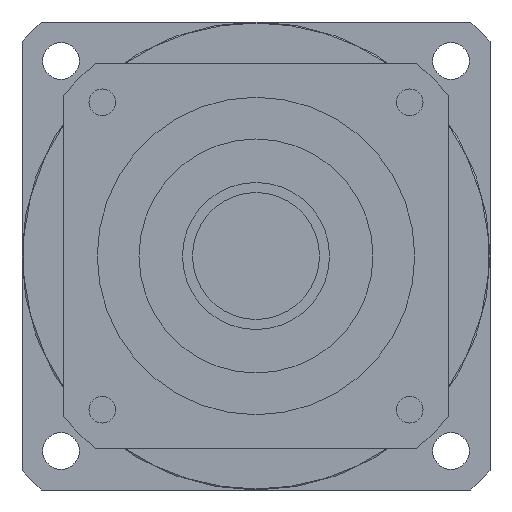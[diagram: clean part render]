
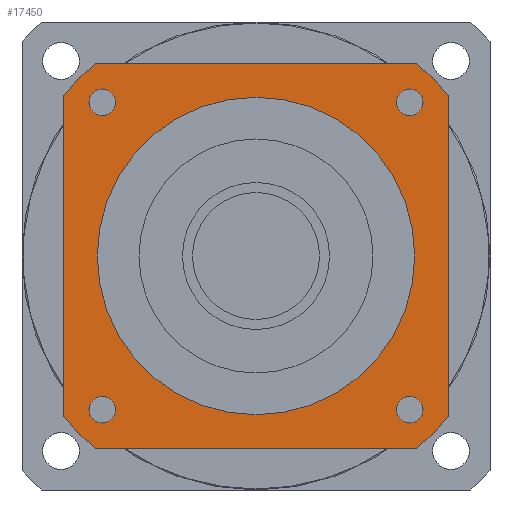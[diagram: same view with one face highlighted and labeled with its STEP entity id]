
A CAD part, left-side view. The second image highlights one B-rep face of the part: STEP entity #17450.
In plain terms, the highlighted planar face has unit normal (-1, 0, 0) as drawn and (0, 0, -1) by its records, which use the part's own axes.
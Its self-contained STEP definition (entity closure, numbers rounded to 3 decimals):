
#15250=CARTESIAN_POINT('',(57.5,48.153,-84.7));
#15260=VERTEX_POINT('',#15250);
#15290=CARTESIAN_POINT('',(57.5,57.5,-84.7));
#15300=DIRECTION('',(0.,-1.,0.));
#15310=VECTOR('',#15300,1000.);
#15320=LINE('',#15290,#15310);
#15330=CARTESIAN_POINT('',(57.5,-48.153,-84.7));
#15340=VERTEX_POINT('',#15330);
#15350=EDGE_CURVE('',#15260,#15340,#15320,.T.);
#15560=CARTESIAN_POINT('',(48.153,57.5,-84.7));
#15570=VERTEX_POINT('',#15560);
#15600=CARTESIAN_POINT('',(0.,0.,
-84.7));
#15610=DIRECTION('',(0.,0.,-1.));
#15620=DIRECTION('',(1.,0.,0.));
#15630=AXIS2_PLACEMENT_3D('',#15600,#15610,#15620);
#15640=CIRCLE('',#15630,75.);
#15650=EDGE_CURVE('',#15570,#15260,#15640,.T.);
#15830=CARTESIAN_POINT('',(48.153,-57.5,-84.7));
#15840=VERTEX_POINT('',#15830);
#15870=CARTESIAN_POINT('',(57.5,-57.5,-84.7));
#15880=DIRECTION('',(-1.,0.,0.));
#15890=VECTOR('',#15880,1000.);
#15900=LINE('',#15870,#15890);
#15910=CARTESIAN_POINT('',(-48.153,-57.5,-84.7));
#15920=VERTEX_POINT('',#15910);
#15930=EDGE_CURVE('',#15840,#15920,#15900,.T.);
#16110=CARTESIAN_POINT('',(0.,0.,
-84.7));
#16120=DIRECTION('',(0.,0.,-1.));
#16130=DIRECTION('',(1.,0.,0.));
#16140=AXIS2_PLACEMENT_3D('',#16110,#16120,#16130);
#16150=CIRCLE('',#16140,75.);
#16160=EDGE_CURVE('',#15340,#15840,#16150,.T.);
#16230=CARTESIAN_POINT('',(57.5,57.5,-84.7));
#16240=DIRECTION('',(0.,0.,-1.));
#16250=DIRECTION('',(1.,0.,0.));
#16260=AXIS2_PLACEMENT_3D('',#16230,#16240,#16250);
#16270=PLANE('',#16260);
#16280=CARTESIAN_POINT('',(-45.962,45.962,-84.7));
#16290=DIRECTION('',(0.,0.,-1.));
#16300=DIRECTION('',(-1.,0.,0.));
#16310=AXIS2_PLACEMENT_3D('',#16280,#16290,#16300);
#16320=CIRCLE('',#16310,4.);
#16330=CARTESIAN_POINT('',(-49.962,45.962,-84.7));
#16340=VERTEX_POINT('',#16330);
#16350=CARTESIAN_POINT('',(-41.962,45.962,-84.7));
#16360=VERTEX_POINT('',#16350);
#16370=EDGE_CURVE('',#16340,#16360,#16320,.T.);
#16380=ORIENTED_EDGE('',*,*,#16370,.F.);
#16390=EDGE_CURVE('',#16360,#16340,#16320,.T.);
#16400=ORIENTED_EDGE('',*,*,#16390,.F.);
#16410=EDGE_LOOP('',(#16400,#16380));
#16420=FACE_BOUND('',#16410,.T.);
#16430=CARTESIAN_POINT('',(45.962,45.962,-84.7));
#16440=DIRECTION('',(0.,0.,-1.));
#16450=DIRECTION('',(0.,1.,0.));
#16460=AXIS2_PLACEMENT_3D('',#16430,#16440,#16450);
#16470=CIRCLE('',#16460,4.);
#16480=CARTESIAN_POINT('',(45.962,49.962,-84.7));
#16490=VERTEX_POINT('',#16480);
#16500=CARTESIAN_POINT('',(45.962,41.962,-84.7));
#16510=VERTEX_POINT('',#16500);
#16520=EDGE_CURVE('',#16490,#16510,#16470,.T.);
#16530=ORIENTED_EDGE('',*,*,#16520,.F.);
#16540=EDGE_CURVE('',#16510,#16490,#16470,.T.);
#16550=ORIENTED_EDGE('',*,*,#16540,.F.);
#16560=EDGE_LOOP('',(#16550,#16530));
#16570=FACE_BOUND('',#16560,.T.);
#16580=CARTESIAN_POINT('',(0.,0.,
-84.7));
#16590=DIRECTION('',(0.,0.,1.));
#16600=DIRECTION('',(0.,1.,0.));
#16610=AXIS2_PLACEMENT_3D('',#16580,#16590,#16600);
#16620=CIRCLE('',#16610,47.5);
#16630=CARTESIAN_POINT('',(-47.5,0.,-84.7));
#16640=VERTEX_POINT('',#16630);
#16650=CARTESIAN_POINT('',(47.5,0.,-84.7));
#16660=VERTEX_POINT('',#16650);
#16670=EDGE_CURVE('',#16640,#16660,#16620,.T.);
#16680=ORIENTED_EDGE('',*,*,#16670,.T.);
#16690=CARTESIAN_POINT('',(0.,47.5,-84.7));
#16700=VERTEX_POINT('',#16690);
#16710=EDGE_CURVE('',#16700,#16640,#16620,.T.);
#16720=ORIENTED_EDGE('',*,*,#16710,.T.);
#16730=EDGE_CURVE('',#16660,#16700,#16620,.T.);
#16740=ORIENTED_EDGE('',*,*,#16730,.T.);
#16750=EDGE_LOOP('',(#16740,#16720,#16680));
#16760=FACE_BOUND('',#16750,.T.);
#16770=CARTESIAN_POINT('',(45.962,-45.962,-84.7));
#16780=DIRECTION('',(0.,0.,-1.));
#16790=DIRECTION('',(1.,0.,0.));
#16800=AXIS2_PLACEMENT_3D('',#16770,#16780,#16790);
#16810=CIRCLE('',#16800,4.);
#16820=CARTESIAN_POINT('',(49.962,-45.962,-84.7));
#16830=VERTEX_POINT('',#16820);
#16840=CARTESIAN_POINT('',(41.962,-45.962,-84.7));
#16850=VERTEX_POINT('',#16840);
#16860=EDGE_CURVE('',#16830,#16850,#16810,.T.);
#16870=ORIENTED_EDGE('',*,*,#16860,.F.);
#16880=EDGE_CURVE('',#16850,#16830,#16810,.T.);
#16890=ORIENTED_EDGE('',*,*,#16880,.F.);
#16900=EDGE_LOOP('',(#16890,#16870));
#16910=FACE_BOUND('',#16900,.T.);
#16920=CARTESIAN_POINT('',(-45.962,-45.962,-84.7));
#16930=DIRECTION('',(0.,0.,-1.));
#16940=DIRECTION('',(0.,-1.,0.));
#16950=AXIS2_PLACEMENT_3D('',#16920,#16930,#16940);
#16960=CIRCLE('',#16950,4.);
#16970=CARTESIAN_POINT('',(-45.962,-49.962,-84.7));
#16980=VERTEX_POINT('',#16970);
#16990=CARTESIAN_POINT('',(-45.962,-41.962,-84.7));
#17000=VERTEX_POINT('',#16990);
#17010=EDGE_CURVE('',#16980,#17000,#16960,.T.);
#17020=ORIENTED_EDGE('',*,*,#17010,.F.);
#17030=EDGE_CURVE('',#17000,#16980,#16960,.T.);
#17040=ORIENTED_EDGE('',*,*,#17030,.F.);
#17050=EDGE_LOOP('',(#17040,#17020));
#17060=FACE_BOUND('',#17050,.T.);
#17070=CARTESIAN_POINT('',(-57.5,57.5,-84.7));
#17080=DIRECTION('',(1.,0.,0.));
#17090=VECTOR('',#17080,1000.);
#17100=LINE('',#17070,#17090);
#17110=CARTESIAN_POINT('',(-48.153,57.5,-84.7));
#17120=VERTEX_POINT('',#17110);
#17130=EDGE_CURVE('',#17120,#15570,#17100,.T.);
#17140=ORIENTED_EDGE('',*,*,#17130,.T.);
#17150=CARTESIAN_POINT('',(0.,0.,
-84.7));
#17160=DIRECTION('',(0.,0.,-1.));
#17170=DIRECTION('',(1.,0.,0.));
#17180=AXIS2_PLACEMENT_3D('',#17150,#17160,#17170);
#17190=CIRCLE('',#17180,75.);
#17200=CARTESIAN_POINT('',(-57.5,48.153,-84.7));
#17210=VERTEX_POINT('',#17200);
#17220=EDGE_CURVE('',#17210,#17120,#17190,.T.);
#17230=ORIENTED_EDGE('',*,*,#17220,.T.);
#17240=CARTESIAN_POINT('',(-57.5,-57.5,-84.7));
#17250=DIRECTION('',(0.,1.,0.));
#17260=VECTOR('',#17250,1000.);
#17270=LINE('',#17240,#17260);
#17280=CARTESIAN_POINT('',(-57.5,-48.153,-84.7));
#17290=VERTEX_POINT('',#17280);
#17300=EDGE_CURVE('',#17290,#17210,#17270,.T.);
#17310=ORIENTED_EDGE('',*,*,#17300,.T.);
#17320=CARTESIAN_POINT('',(0.,0.,
-84.7));
#17330=DIRECTION('',(0.,0.,-1.));
#17340=DIRECTION('',(1.,0.,0.));
#17350=AXIS2_PLACEMENT_3D('',#17320,#17330,#17340);
#17360=CIRCLE('',#17350,75.);
#17370=EDGE_CURVE('',#15920,#17290,#17360,.T.);
#17380=ORIENTED_EDGE('',*,*,#17370,.T.);
#17390=ORIENTED_EDGE('',*,*,#15930,.T.);
#17400=ORIENTED_EDGE('',*,*,#16160,.T.);
#17410=ORIENTED_EDGE('',*,*,#15350,.T.);
#17420=ORIENTED_EDGE('',*,*,#15650,.T.);
#17430=EDGE_LOOP('',(#17420,#17410,#17400,#17390,#17380,#17310,#17230,
#17140));
#17440=FACE_OUTER_BOUND('',#17430,.T.);
#17450=ADVANCED_FACE('',(#16420,#16570,#16760,#16910,#17060,#17440),
#16270,.T.);
